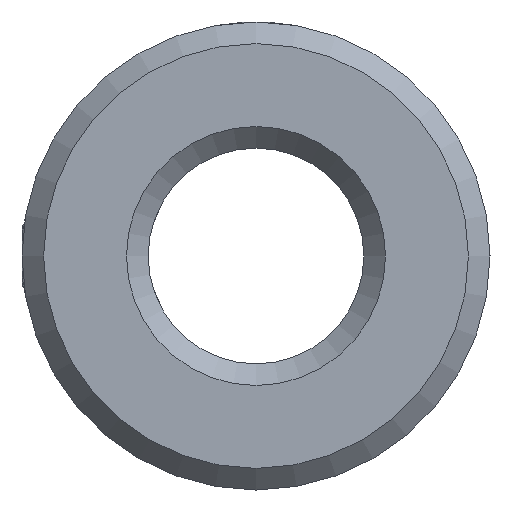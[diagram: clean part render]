
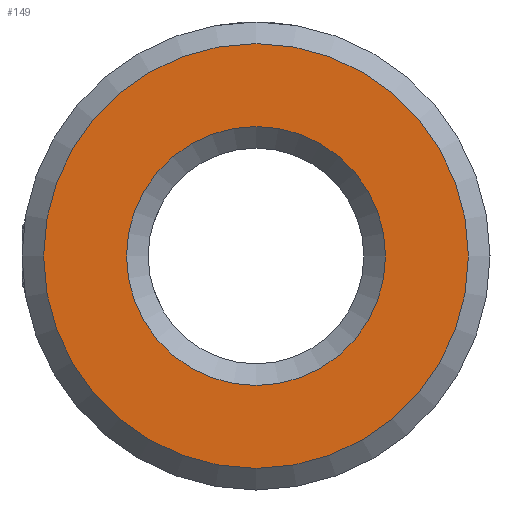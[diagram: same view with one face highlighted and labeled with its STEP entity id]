
A CAD part, left-side view. The second image highlights one B-rep face of the part: STEP entity #149.
In plain terms, the highlighted planar face has unit normal (-1, 0, 0).
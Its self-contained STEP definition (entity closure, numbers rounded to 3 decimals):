
#149 = ADVANCED_FACE( '', ( #286, #287 ), #288, .T. );
#286 = FACE_BOUND( '', #402, .T. );
#287 = FACE_OUTER_BOUND( '', #403, .T. );
#288 = PLANE( '', #404 );
#402 = EDGE_LOOP( '', ( #582 ) );
#403 = EDGE_LOOP( '', ( #583 ) );
#404 = AXIS2_PLACEMENT_3D( '', #584, #585, #586 );
#582 = ORIENTED_EDGE( '', *, *, #646, .T. );
#583 = ORIENTED_EDGE( '', *, *, #595, .F. );
#584 = CARTESIAN_POINT( '', ( -7.5, 5.901, 0. ) );
#585 = DIRECTION( '', ( -1., 0., 0. ) );
#586 = DIRECTION( '', ( 0., 0., 1. ) );
#595 = EDGE_CURVE( '', #661, #661, #662, .T. );
#646 = EDGE_CURVE( '', #739, #739, #740, .T. );
#661 = VERTEX_POINT( '', #757 );
#662 = CIRCLE( '', #758, 5.901 );
#739 = VERTEX_POINT( '', #967 );
#740 = CIRCLE( '', #968, 3.597 );
#757 = CARTESIAN_POINT( '', ( -7.5, 0., -5.901 ) );
#758 = AXIS2_PLACEMENT_3D( '', #1034, #1035, #1036 );
#967 = CARTESIAN_POINT( '', ( -7.5, 0., -3.597 ) );
#968 = AXIS2_PLACEMENT_3D( '', #1097, #1098, #1099 );
#1034 = CARTESIAN_POINT( '', ( -7.5, 0., 0. ) );
#1035 = DIRECTION( '', ( 1., 0., 0. ) );
#1036 = DIRECTION( '', ( 0., 0., -1. ) );
#1097 = CARTESIAN_POINT( '', ( -7.5, 0., 0. ) );
#1098 = DIRECTION( '', ( 1., 0., 0. ) );
#1099 = DIRECTION( '', ( 0., 0., -1. ) );
